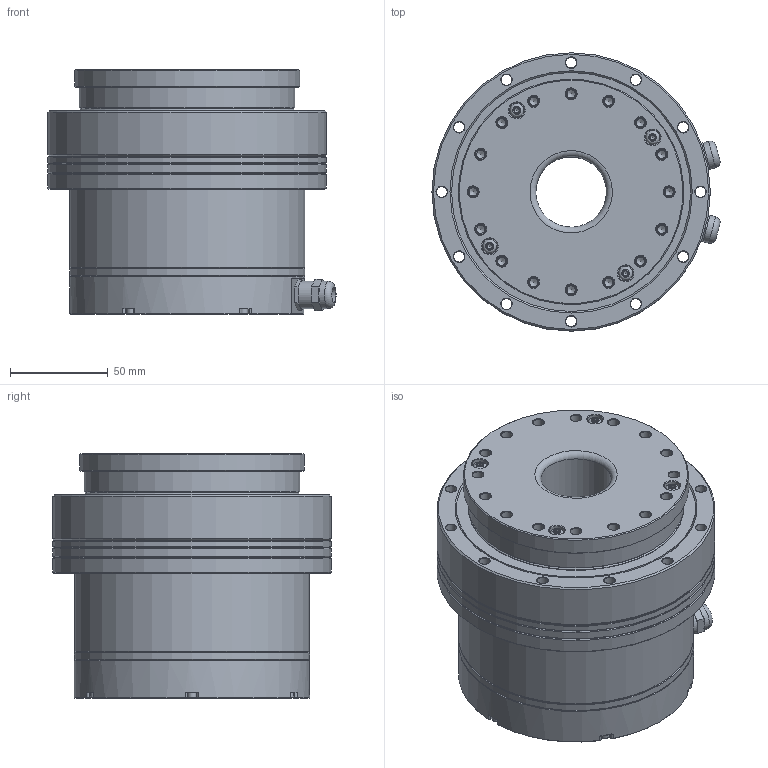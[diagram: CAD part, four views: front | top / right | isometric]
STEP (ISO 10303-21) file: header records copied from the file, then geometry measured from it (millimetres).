
FILE_DESCRIPTION(/* description */ (''),/* implementation_level */ '2;1');
FILE_NAME(/* name */ 'MIS32D-BS-C00.stp',/* time_stamp */ '2025-04-17T15:48:58+08:00',/* author */ (''),/* organization */ (''),/* preprocessor_version */ 'ST-DEVELOPER v16.7',/* originating_system */ 'SIEMENS PLM Software NX 12.0',/* authorisation */ '');
FILE_SCHEMA (('AUTOMOTIVE_DESIGN { 1 0 10303 214 3 1 1 1 }'));
Length unit declared in the file: millimetre
Products named in the file (1): MIS32D-BS-C00
Bounding box: 146.99 x 142 x 125 mm (x, y, z)
Volume: 652021 mm3; surface area: 349918.4 mm2
Topology: 42 solids, 46 shells, 2025 faces, 4479 edges, 2626 vertices
Faces by surface type: cone 812, plane 677, cylinder 462, torus 74
Full cylindrical faces by diameter (mm): 1.25 x8, 1.6 x4, 2 x2, 2.05 x12, 2.38 x12, 2.5 x18, 2.7 x18, 3.3 x16, 3.7 x6, 3.838 x16, 4 x6, 4.2 x16, 4.3 x4, 4.5 x32, 5.5 x80, 7 x16, 8 x24, 12 x6, 14 x4, 36 x1, 37 x1, 38 x1, 40 x1, 48 x1, 61 x1, 65 x1, 67 x1, 71 x1, 72 x1, 77 x1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
Entity records: 51019 total; most frequent: CARTESIAN_POINT 9361, DIRECTION 9100, ORIENTED_EDGE 6532, AXIS2_PLACEMENT_3D 4018, EDGE_LOOP 3365, EDGE_CURVE 3266, FACE_BOUND 2502, VERTEX_POINT 2419
